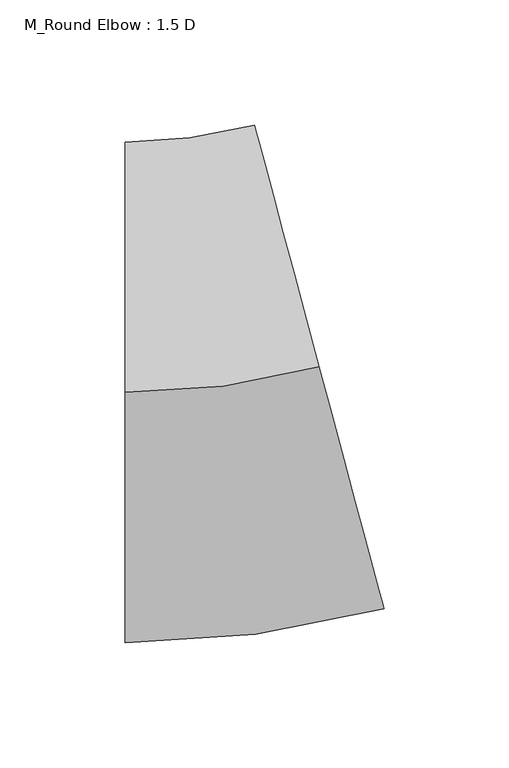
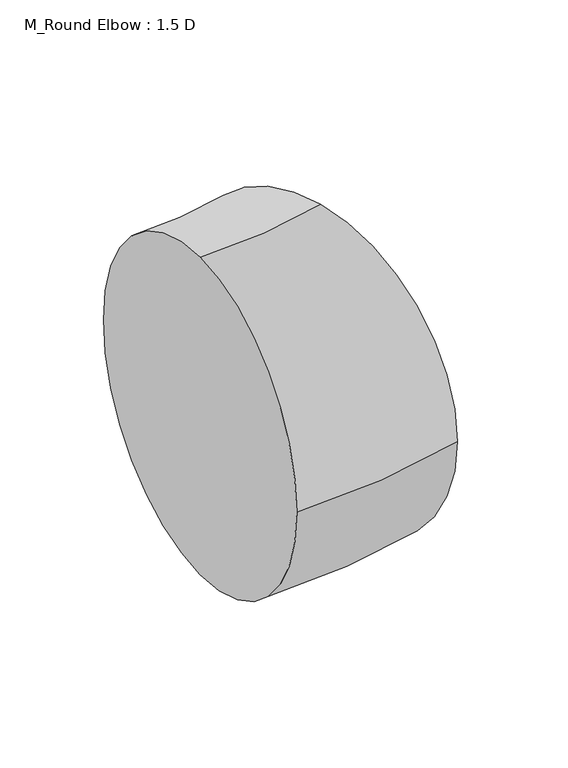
"""IFC4 building model written with IfcOpenShell, lengths in millimetres: duct fitting geometry, M_Round Elbow : 1.5 D."""

from ifc_helpers import new_model, si_unit, point, frame, origin, place, context, project, spatial, circle_curve, ellipse_curve, trimmed, source, transform, mapped, element, save
from ifc_brep_helpers import plane_surface, revolved_surface, advanced_brep


def m_round_elbow_1_5_d_51f0f859(model_context):
    return source(origin(), model_context, "Body", "AdvancedBrep", [
        advanced_brep(
        [(-39.4957493, 0.0, 100.0), (-39.4957493, 100.0, 0.0), (-39.4957493, 0.0, -100.0), (-39.4957493, -100.0, 0.0), (38.1499643, 10.2222521, 100.0), (64.0318688, -86.3703305, 0.0), (38.1499643, 10.2222521, -100.0), (12.2680597, 106.8148347, 0.0)],
        [
            (0, 1, circle_curve(frame((-39.4957493, 0.0, 0.0), z_axis=(-1.0, 0.0, 0.0), x_axis=(0.0, 1.0, 0.0)), 100.0)),
            (1, 2, circle_curve(frame((-39.4957493, 0.0, 0.0), z_axis=(-1.0, 0.0, 0.0), x_axis=(0.0, 1.0, 0.0)), 100.0)),
            (2, 3, circle_curve(frame((-39.4957493, 0.0, 0.0), z_axis=(-1.0, 0.0, 0.0), x_axis=(0.0, 1.0, 0.0)), 100.0)),
            (3, 0, circle_curve(frame((-39.4957493, 0.0, 0.0), z_axis=(-1.0, 0.0, 0.0), x_axis=(0.0, 1.0, 0.0)), 100.0)),
            (4, 5, circle_curve(frame((38.1499643, 10.2222521, 0.0), z_axis=(0.9659258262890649, 0.2588190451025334, 0.0), x_axis=(-0.2588190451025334, 0.9659258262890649, 0.0)), 100.0)),
            (5, 6, circle_curve(frame((38.1499643, 10.2222521, 0.0), z_axis=(0.9659258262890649, 0.2588190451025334, 0.0), x_axis=(-0.2588190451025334, 0.9659258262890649, 0.0)), 100.0)),
            (6, 7, circle_curve(frame((38.1499643, 10.2222521, 0.0), z_axis=(0.9659258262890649, 0.2588190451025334, 0.0), x_axis=(-0.2588190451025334, 0.9659258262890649, 0.0)), 100.0)),
            (7, 4, circle_curve(frame((38.1499643, 10.2222521, 0.0), z_axis=(0.9659258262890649, 0.2588190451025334, 0.0), x_axis=(-0.2588190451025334, 0.9659258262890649, 0.0)), 100.0)),
            (7, 1, circle_curve(frame((-39.4957493, 300.0, 0.0), z_axis=(0.0, 0.0, -1.0), x_axis=(0.0, -1.0, 0.0)), 200.0)),
            (0, 4, circle_curve(frame((-39.4957493, 300.0, 100.0), z_axis=(0.0, 0.0, 1.0), x_axis=(0.0, -1.0, 0.0)), 300.0)),
            (6, 2, circle_curve(frame((-39.4957493, 300.0, -100.0), z_axis=(0.0, 0.0, -1.0), x_axis=(0.0, -1.0, 0.0)), 300.0)),
            (5, 3, circle_curve(frame((-39.4957493, 300.0, 0.0), z_axis=(0.0, 0.0, -1.0), x_axis=(0.0, -1.0, 0.0)), 400.0)),
        ],
        [
            plane_surface(frame((-39.4957493, 0.0, 0.0), z_axis=(-1.0, 0.0, 0.0), x_axis=(0.0, 0.0, 1.0))),
            plane_surface(frame((38.1499643, 10.2222521, 0.0), z_axis=(0.965925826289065, 0.2588190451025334, 0.0), x_axis=(0.0, 0.0, 1.0))),
            revolved_surface(trimmed(ellipse_curve(frame((-39.4957493, 0.0, 0.0), z_axis=(-1.0, 0.0, 0.0), x_axis=(0.0, 1.0, 0.0)), 100.0, 100.0), [point((-39.4957493, 0.0, 100.0))], [point((-39.4957493, 100.0, 0.0))], True, "CARTESIAN"), (-39.4957493, 300.0, 0.0), (0.0, 0.0, 1.0)),
            revolved_surface(trimmed(ellipse_curve(frame((-39.4957493, 0.0, 0.0), z_axis=(-1.0, 0.0, 0.0), x_axis=(0.0, 1.0, 0.0)), 100.0, 100.0), [point((-39.4957493, 100.0, 0.0))], [point((-39.4957493, 0.0, -100.0))], True, "CARTESIAN"), (-39.4957493, 300.0, 0.0), (0.0, 0.0, 1.0)),
            revolved_surface(trimmed(ellipse_curve(frame((-39.4957493, 0.0, 0.0), z_axis=(-1.0, 0.0, 0.0), x_axis=(0.0, 1.0, 0.0)), 100.0, 100.0), [point((-39.4957493, 0.0, -100.0))], [point((-39.4957493, -100.0, 0.0))], True, "CARTESIAN"), (-39.4957493, 300.0, 0.0), (0.0, 0.0, 1.0)),
            revolved_surface(trimmed(ellipse_curve(frame((-39.4957493, 0.0, 0.0), z_axis=(-1.0, 0.0, 0.0), x_axis=(0.0, 1.0, 0.0)), 100.0, 100.0), [point((-39.4957493, -100.0, 0.0))], [point((-39.4957493, 0.0, 100.0))], True, "CARTESIAN"), (-39.4957493, 300.0, 0.0), (0.0, 0.0, 1.0)),
        ],
        [
            (0, [[1, 2, 3, 4]]),
            (1, [[5, 6, 7, 8]]),
            (2, [[9, -1, 10, -8]]),
            (3, [[11, -2, -9, -7]]),
            (4, [[12, -3, -11, -6]]),
            (5, [[-10, -4, -12, -5]]),
        ],
    ),
        advanced_brep(
        [(-39.4957493, 0.0, 100.0), (-39.4957493, 100.0, 0.0), (-39.4957493, 0.0, -100.0), (-39.4957493, -100.0, 0.0), (38.1499643, 10.2222521, 100.0), (64.0318688, -86.3703305, 0.0), (38.1499643, 10.2222521, -100.0), (12.2680597, 106.8148347, 0.0)],
        [
            (0, 1, circle_curve(frame((-39.4957493, 0.0, 0.0), z_axis=(-1.0, 0.0, 0.0), x_axis=(0.0, 1.0, 0.0)), 100.0)),
            (1, 2, circle_curve(frame((-39.4957493, 0.0, 0.0), z_axis=(-1.0, 0.0, 0.0), x_axis=(0.0, 1.0, 0.0)), 100.0)),
            (2, 3, circle_curve(frame((-39.4957493, 0.0, 0.0), z_axis=(-1.0, 0.0, 0.0), x_axis=(0.0, 1.0, 0.0)), 100.0)),
            (3, 0, circle_curve(frame((-39.4957493, 0.0, 0.0), z_axis=(-1.0, 0.0, 0.0), x_axis=(0.0, 1.0, 0.0)), 100.0)),
            (4, 5, circle_curve(frame((38.1499643, 10.2222521, 0.0), z_axis=(0.9659258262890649, 0.2588190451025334, 0.0), x_axis=(-0.2588190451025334, 0.9659258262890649, 0.0)), 100.0)),
            (5, 6, circle_curve(frame((38.1499643, 10.2222521, 0.0), z_axis=(0.9659258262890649, 0.2588190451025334, 0.0), x_axis=(-0.2588190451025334, 0.9659258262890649, 0.0)), 100.0)),
            (6, 7, circle_curve(frame((38.1499643, 10.2222521, 0.0), z_axis=(0.9659258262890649, 0.2588190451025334, 0.0), x_axis=(-0.2588190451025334, 0.9659258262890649, 0.0)), 100.0)),
            (7, 4, circle_curve(frame((38.1499643, 10.2222521, 0.0), z_axis=(0.9659258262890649, 0.2588190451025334, 0.0), x_axis=(-0.2588190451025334, 0.9659258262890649, 0.0)), 100.0)),
            (7, 1, circle_curve(frame((-39.4957493, 300.0, 0.0), z_axis=(0.0, 0.0, -1.0), x_axis=(0.0, -1.0, 0.0)), 200.0)),
            (0, 4, circle_curve(frame((-39.4957493, 300.0, 100.0), z_axis=(0.0, 0.0, 1.0), x_axis=(0.0, -1.0, 0.0)), 300.0)),
            (6, 2, circle_curve(frame((-39.4957493, 300.0, -100.0), z_axis=(0.0, 0.0, -1.0), x_axis=(0.0, -1.0, 0.0)), 300.0)),
            (5, 3, circle_curve(frame((-39.4957493, 300.0, 0.0), z_axis=(0.0, 0.0, -1.0), x_axis=(0.0, -1.0, 0.0)), 400.0)),
        ],
        [
            plane_surface(frame((-39.4957493, 0.0, 0.0), z_axis=(-1.0, 0.0, 0.0), x_axis=(0.0, 0.0, 1.0))),
            plane_surface(frame((38.1499643, 10.2222521, 0.0), z_axis=(0.965925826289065, 0.2588190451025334, 0.0), x_axis=(0.0, 0.0, 1.0))),
            revolved_surface(trimmed(ellipse_curve(frame((-39.4957493, 0.0, 0.0), z_axis=(-1.0, 0.0, 0.0), x_axis=(0.0, 1.0, 0.0)), 100.0, 100.0), [point((-39.4957493, 0.0, 100.0))], [point((-39.4957493, 100.0, 0.0))], True, "CARTESIAN"), (-39.4957493, 300.0, 0.0), (0.0, 0.0, 1.0)),
            revolved_surface(trimmed(ellipse_curve(frame((-39.4957493, 0.0, 0.0), z_axis=(-1.0, 0.0, 0.0), x_axis=(0.0, 1.0, 0.0)), 100.0, 100.0), [point((-39.4957493, 100.0, 0.0))], [point((-39.4957493, 0.0, -100.0))], True, "CARTESIAN"), (-39.4957493, 300.0, 0.0), (0.0, 0.0, 1.0)),
            revolved_surface(trimmed(ellipse_curve(frame((-39.4957493, 0.0, 0.0), z_axis=(-1.0, 0.0, 0.0), x_axis=(0.0, 1.0, 0.0)), 100.0, 100.0), [point((-39.4957493, 0.0, -100.0))], [point((-39.4957493, -100.0, 0.0))], True, "CARTESIAN"), (-39.4957493, 300.0, 0.0), (0.0, 0.0, 1.0)),
            revolved_surface(trimmed(ellipse_curve(frame((-39.4957493, 0.0, 0.0), z_axis=(-1.0, 0.0, 0.0), x_axis=(0.0, 1.0, 0.0)), 100.0, 100.0), [point((-39.4957493, -100.0, 0.0))], [point((-39.4957493, 0.0, 100.0))], True, "CARTESIAN"), (-39.4957493, 300.0, 0.0), (0.0, 0.0, 1.0)),
        ],
        [
            (0, [[1, 2, 3, 4]]),
            (1, [[5, 6, 7, 8]]),
            (2, [[9, -1, 10, -8]]),
            (3, [[11, -2, -9, -7]]),
            (4, [[12, -3, -11, -6]]),
            (5, [[-10, -4, -12, -5]]),
        ],
    ),
        advanced_brep(
        [(-39.4957493, 0.0, 100.0), (-39.4957493, 100.0, 0.0), (-39.4957493, 0.0, -100.0), (-39.4957493, -100.0, 0.0), (38.1499643, 10.2222521, 100.0), (64.0318688, -86.3703305, 0.0), (38.1499643, 10.2222521, -100.0), (12.2680597, 106.8148347, 0.0)],
        [
            (0, 1, circle_curve(frame((-39.4957493, 0.0, 0.0), z_axis=(-1.0, 0.0, 0.0), x_axis=(0.0, 1.0, 0.0)), 100.0)),
            (1, 2, circle_curve(frame((-39.4957493, 0.0, 0.0), z_axis=(-1.0, 0.0, 0.0), x_axis=(0.0, 1.0, 0.0)), 100.0)),
            (2, 3, circle_curve(frame((-39.4957493, 0.0, 0.0), z_axis=(-1.0, 0.0, 0.0), x_axis=(0.0, 1.0, 0.0)), 100.0)),
            (3, 0, circle_curve(frame((-39.4957493, 0.0, 0.0), z_axis=(-1.0, 0.0, 0.0), x_axis=(0.0, 1.0, 0.0)), 100.0)),
            (4, 5, circle_curve(frame((38.1499643, 10.2222521, 0.0), z_axis=(0.9659258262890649, 0.2588190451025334, 0.0), x_axis=(-0.2588190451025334, 0.9659258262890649, 0.0)), 100.0)),
            (5, 6, circle_curve(frame((38.1499643, 10.2222521, 0.0), z_axis=(0.9659258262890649, 0.2588190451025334, 0.0), x_axis=(-0.2588190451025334, 0.9659258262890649, 0.0)), 100.0)),
            (6, 7, circle_curve(frame((38.1499643, 10.2222521, 0.0), z_axis=(0.9659258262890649, 0.2588190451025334, 0.0), x_axis=(-0.2588190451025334, 0.9659258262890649, 0.0)), 100.0)),
            (7, 4, circle_curve(frame((38.1499643, 10.2222521, 0.0), z_axis=(0.9659258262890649, 0.2588190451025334, 0.0), x_axis=(-0.2588190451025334, 0.9659258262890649, 0.0)), 100.0)),
            (7, 1, circle_curve(frame((-39.4957493, 300.0, 0.0), z_axis=(0.0, 0.0, -1.0), x_axis=(0.0, -1.0, 0.0)), 200.0)),
            (0, 4, circle_curve(frame((-39.4957493, 300.0, 100.0), z_axis=(0.0, 0.0, 1.0), x_axis=(0.0, -1.0, 0.0)), 300.0)),
            (6, 2, circle_curve(frame((-39.4957493, 300.0, -100.0), z_axis=(0.0, 0.0, -1.0), x_axis=(0.0, -1.0, 0.0)), 300.0)),
            (5, 3, circle_curve(frame((-39.4957493, 300.0, 0.0), z_axis=(0.0, 0.0, -1.0), x_axis=(0.0, -1.0, 0.0)), 400.0)),
        ],
        [
            plane_surface(frame((-39.4957493, 0.0, 0.0), z_axis=(-1.0, 0.0, 0.0), x_axis=(0.0, 0.0, 1.0))),
            plane_surface(frame((38.1499643, 10.2222521, 0.0), z_axis=(0.965925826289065, 0.2588190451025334, 0.0), x_axis=(0.0, 0.0, 1.0))),
            revolved_surface(trimmed(ellipse_curve(frame((-39.4957493, 0.0, 0.0), z_axis=(-1.0, 0.0, 0.0), x_axis=(0.0, 1.0, 0.0)), 100.0, 100.0), [point((-39.4957493, 0.0, 100.0))], [point((-39.4957493, 100.0, 0.0))], True, "CARTESIAN"), (-39.4957493, 300.0, 0.0), (0.0, 0.0, 1.0)),
            revolved_surface(trimmed(ellipse_curve(frame((-39.4957493, 0.0, 0.0), z_axis=(-1.0, 0.0, 0.0), x_axis=(0.0, 1.0, 0.0)), 100.0, 100.0), [point((-39.4957493, 100.0, 0.0))], [point((-39.4957493, 0.0, -100.0))], True, "CARTESIAN"), (-39.4957493, 300.0, 0.0), (0.0, 0.0, 1.0)),
            revolved_surface(trimmed(ellipse_curve(frame((-39.4957493, 0.0, 0.0), z_axis=(-1.0, 0.0, 0.0), x_axis=(0.0, 1.0, 0.0)), 100.0, 100.0), [point((-39.4957493, 0.0, -100.0))], [point((-39.4957493, -100.0, 0.0))], True, "CARTESIAN"), (-39.4957493, 300.0, 0.0), (0.0, 0.0, 1.0)),
            revolved_surface(trimmed(ellipse_curve(frame((-39.4957493, 0.0, 0.0), z_axis=(-1.0, 0.0, 0.0), x_axis=(0.0, 1.0, 0.0)), 100.0, 100.0), [point((-39.4957493, -100.0, 0.0))], [point((-39.4957493, 0.0, 100.0))], True, "CARTESIAN"), (-39.4957493, 300.0, 0.0), (0.0, 0.0, 1.0)),
        ],
        [
            (0, [[1, 2, 3, 4]]),
            (1, [[5, 6, 7, 8]]),
            (2, [[9, -1, 10, -8]]),
            (3, [[11, -2, -9, -7]]),
            (4, [[12, -3, -11, -6]]),
            (5, [[-10, -4, -12, -5]]),
        ],
    ),
    ])


if __name__ == "__main__":
    model = new_model("IFC4")
    model_context = context("Model", 3, world=origin())
    ifc_project = project(units=[si_unit("LENGTHUNIT", "METRE", prefix="MILLI")], contexts=[model_context])
    site = spatial("IfcSite", under=ifc_project)
    building = spatial("IfcBuilding", under=site)
    placement = place(None, origin())
    m_round_elbow_1_5_d_shape = m_round_elbow_1_5_d_51f0f859(model_context)
    element("IfcDuctFitting", 1, ObjectType="M_Round Elbow : 1.5 D", at=placement, inside=building, context=model_context, shape_type="MappedRepresentation", body=[
        mapped(m_round_elbow_1_5_d_shape, transform((0.0, 0.0, 0.0), x_axis=(1.0, 0.0, 0.0), y_axis=(0.0, 1.0, 0.0), z_axis=(0.0, 0.0, 1.0))),
    ])
    save(model, "model.ifc")
